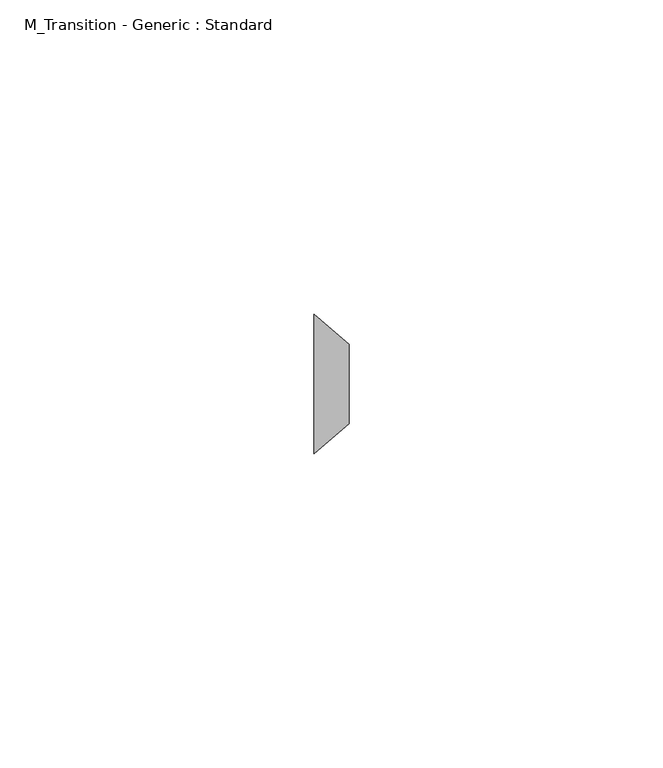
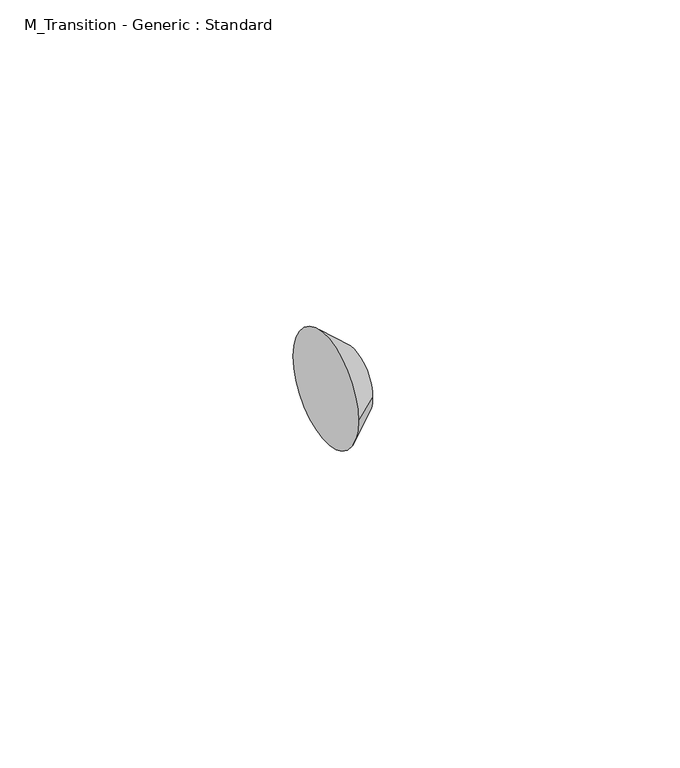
"""IFC4 building model written with IfcOpenShell, lengths in millimetres: pipe fitting geometry, M_Transition - Generic : Standard."""

import ifcopenshell
import ifcopenshell.guid

model = None  # the IFC model being written
_history = None  # IfcOwnerHistory: only IFC2X3 demands one
_inside = {}  # id of a spatial element -> (the spatial element, [elements in it])
_under = {}  # id of a project, library or spatial element -> (it, [spatial elements below it])
_declared = {}  # id of a project -> (the project, [libraries it declares])
_typed = {}  # id of a type object -> (the type object, [elements of that type])
_made_of = {}  # id of a material, layer set ... -> (it, [elements and type objects made of it])


def new_model(schema):
    """Start an empty IFC model of exactly this schema.

    Asked for "IFC4X3", IfcOpenShell would pick the latest addendum, in which some entities
    have other attributes; the version numbers below select the first issue.
    IFC2X3 requires an IfcOwnerHistory on every rooted entity: one is made here for all.
    """
    global model, _history
    if schema == "IFC4X3":
        model = ifcopenshell.file(schema_version=(4, 3, 0, 0))
    else:
        model = ifcopenshell.file(schema=schema)
    _inside.clear()
    _under.clear()
    _declared.clear()
    _typed.clear()
    _made_of.clear()
    _history = None
    if model.schema == "IFC2X3":
        org = make("IfcOrganization", Name="unknown")
        user = make(
            "IfcPersonAndOrganization",
            ThePerson=make("IfcPerson", FamilyName="unknown"),
            TheOrganization=org,
        )
        app = make(
            "IfcApplication",
            ApplicationDeveloper=org,
            Version="unknown",
            ApplicationFullName="unknown",
            ApplicationIdentifier="unknown",
        )
        _history = make(
            "IfcOwnerHistory",
            OwningUser=user,
            OwningApplication=app,
            ChangeAction="ADDED",
            CreationDate=0,
        )
    return model


def make(cls, **values):
    """One entity of the class cls with the attributes given. An attribute that is None is left unset."""
    return model.create_entity(
        cls, **{name: value for name, value in values.items() if value is not None}
    )


def rooted(cls, **values):
    """An entity with a GlobalId (a new one), such as an element, a storey or a relation."""
    return make(cls, GlobalId=ifcopenshell.guid.new(), OwnerHistory=_history, **values)


def si_unit(unit_type, name, prefix=None):
    """IfcSIUnit, for example si_unit("LENGTHUNIT", "METRE", prefix="MILLI")."""
    return make("IfcSIUnit", UnitType=unit_type, Prefix=prefix, Name=name)


def assignment(units):
    """IfcUnitAssignment: the units of a project."""
    return None if units is None else make("IfcUnitAssignment", Units=units)


def point(xyz):
    """IfcCartesianPoint."""
    return None if xyz is None else make("IfcCartesianPoint", Coordinates=xyz)


def direction(xyz):
    """IfcDirection."""
    return None if xyz is None else make("IfcDirection", DirectionRatios=xyz)


def frame(location, z_axis=None, x_axis=None):
    """IfcAxis2Placement3D, a coordinate frame: its origin and axes. An axis left out is left unset."""
    return make(
        "IfcAxis2Placement3D",
        Location=point(location),
        Axis=direction(z_axis),
        RefDirection=direction(x_axis),
    )


def origin():
    """The frame at (0, 0, 0) with its axes left unset."""
    return frame((0.0, 0.0, 0.0))


def place(relative_to, where):
    """IfcLocalPlacement: puts the frame where relative to a parent placement (None: the world)."""
    return make(
        "IfcLocalPlacement", PlacementRelTo=relative_to, RelativePlacement=where
    )


def context(
    kind, dimensions, precision=None, world=None, true_north=None, identifier=None
):
    """IfcGeometricRepresentationContext, for example the 3D "Model" context."""
    return make(
        "IfcGeometricRepresentationContext",
        ContextIdentifier=identifier,
        ContextType=kind,
        CoordinateSpaceDimension=dimensions,
        Precision=precision,
        WorldCoordinateSystem=world,
        TrueNorth=true_north,
    )


def project(units=None, contexts=None):
    """IfcProject with its units and contexts."""
    return rooted(
        "IfcProject",
        Name="project",
        RepresentationContexts=contexts,
        UnitsInContext=assignment(units),
    )


def spatial(cls, under=None, at=None, **own):
    """A site, building, storey or space (cls), placed at a placement, below another one or the project."""
    s = rooted(cls, ObjectPlacement=at, **own)
    if under is not None:
        _under.setdefault(under.id(), (under, []))[1].append(s)
    return s


def polyline(points):
    """IfcPolyline through the points."""
    return make("IfcPolyline", Points=[point(p) for p in points])


def circle_curve(where, radius):
    """IfcCircle in the frame where."""
    return make("IfcCircle", Position=where, Radius=radius)


def shape(context_of_items, identifier, shape_type, items):
    """IfcShapeRepresentation: the items that make up one representation, for example the "Body"."""
    return make(
        "IfcShapeRepresentation",
        ContextOfItems=context_of_items,
        RepresentationIdentifier=identifier,
        RepresentationType=shape_type,
        Items=items,
    )


def source(mapping_origin, context_of_items, identifier, shape_type, items):
    """IfcRepresentationMap: a shape defined once, which mapped items show again and again."""
    return make(
        "IfcRepresentationMap",
        MappingOrigin=mapping_origin,
        MappedRepresentation=shape(context_of_items, identifier, shape_type, items),
    )


def transform(
    local_origin,
    x_axis=None,
    y_axis=None,
    z_axis=None,
    scale=None,
    scale2=None,
    scale3=None,
    uniform=True,
):
    """IfcCartesianTransformationOperator3D, or its non-uniform kind. x_axis, y_axis, z_axis: its Axis1, 2, 3."""
    if uniform:
        return make(
            "IfcCartesianTransformationOperator3D",
            Axis1=direction(x_axis),
            Axis2=direction(y_axis),
            LocalOrigin=point(local_origin),
            Scale=scale,
            Axis3=direction(z_axis),
        )
    return make(
        "IfcCartesianTransformationOperator3DnonUniform",
        Axis1=direction(x_axis),
        Axis2=direction(y_axis),
        LocalOrigin=point(local_origin),
        Scale=scale,
        Axis3=direction(z_axis),
        Scale2=scale2,
        Scale3=scale3,
    )


def mapped(mapping_source, mapping_target):
    """IfcMappedItem: shows the shape of a source again, moved by a transform."""
    return make(
        "IfcMappedItem", MappingSource=mapping_source, MappingTarget=mapping_target
    )


def made_of(thing, what):
    """Note that an element or type object is made of a material, layer set ...; save() writes the relation."""
    if what is not None:
        _made_of.setdefault(what.id(), (what, []))[1].append(thing)
    return thing


def element(
    cls,
    number,
    at=None,
    inside=None,
    cuts=None,
    type_object=None,
    material=None,
    context=None,
    identifier="Body",
    shape_type=None,
    held_by="IfcProductDefinitionShape",
    body=None,
    shapes=None,
    **own,
):
    """One element of the class cls, such as IfcWall. Its Tag is "e" and its number.

    at: its placement. inside: the storey or other place that contains it. cuts: it is an
    opening in that element (IfcRelVoidsElement). A single representation is given by context,
    identifier, shape_type and body (its items); several are given by shapes. held_by: the class
    of the entity that holds the representations. save() writes the other relations.
    """
    e = rooted(cls, Tag="e%d" % number, ObjectPlacement=at, **own)
    if body is not None:
        shapes = [shape(context, identifier, shape_type, body)]
    if shapes is not None:
        e.Representation = make(held_by, Representations=shapes)
    if inside is not None:
        _inside.setdefault(inside.id(), (inside, []))[1].append(e)
    if cuts is not None:
        rooted(
            "IfcRelVoidsElement", RelatingBuildingElement=cuts, RelatedOpeningElement=e
        )
    if type_object is not None:
        _typed.setdefault(type_object.id(), (type_object, []))[1].append(e)
    return made_of(e, material)


def aggregate(whole, parts):
    """IfcRelAggregates: a whole, such as a stair, and the parts it consists of."""
    return rooted("IfcRelAggregates", RelatingObject=whole, RelatedObjects=parts)


def save(model, path):
    """Write the relations noted so far, then the file.

    IfcRelAggregates (storeys below a building ...), IfcRelContainedInSpatialStructure (elements
    in a storey), IfcRelDefinesByType, IfcRelAssociatesMaterial and IfcRelDeclares: one each for
    every whole, place, type object, material and project.
    """
    for whole, parts in _under.values():
        aggregate(whole, parts)
    for where, things in _inside.values():
        rooted(
            "IfcRelContainedInSpatialStructure",
            RelatedElements=things,
            RelatingStructure=where,
        )
    for kind, things in _typed.values():
        rooted("IfcRelDefinesByType", RelatedObjects=things, RelatingType=kind)
    for what, things in _made_of.values():
        rooted("IfcRelAssociatesMaterial", RelatedObjects=things, RelatingMaterial=what)
    for by, libraries in _declared.values():
        rooted("IfcRelDeclares", RelatingContext=by, RelatedDefinitions=libraries)
    model.write(path)


def plane_surface(at):
    """IfcPlane: the flat surface through the origin of the frame at, square to its z axis."""
    return make("IfcPlane", Position=at)


def revolved_surface(curve, axis_point, axis_direction):
    """IfcSurfaceOfRevolution: the curve turned about the line through axis_point along axis_direction."""
    return make(
        "IfcSurfaceOfRevolution",
        SweptCurve=make("IfcArbitraryOpenProfileDef", ProfileType="CURVE", Curve=curve),
        AxisPosition=make("IfcAxis1Placement", Location=point(axis_point), Axis=direction(axis_direction)),
    )


def advanced_brep(points, edges, surfaces, faces):
    """IfcAdvancedBrep: a solid bounded by faces that lie on surfaces and meet in shared edges.

    An edge is (start, end): straight between two places in points (the first is 0);
    or (start, end, curve); or (start, end, curve, False) where it runs against its curve.
    A face is (place in surfaces, loops), or (place, loops, False) where it looks against
    its surface's normal. A loop lists edges by number (the first is 1), with a minus sign
    where the edge is run from its end to its start. The first loop is the outer one.
    """
    corners = [point(p) for p in points]
    vertices = [make("IfcVertexPoint", VertexGeometry=c) for c in corners]
    made = []
    for start, end, *more in edges:
        made.append(
            make(
                "IfcEdgeCurve",
                EdgeStart=vertices[start],
                EdgeEnd=vertices[end],
                EdgeGeometry=more[0] if more else make("IfcPolyline", Points=[corners[start], corners[end]]),
                SameSense=more[1] if len(more) > 1 else True,
            )
        )
    hull = []
    for where, loops, *sense in faces:
        bounds = []
        for j, loop in enumerate(loops):
            ring = [make("IfcOrientedEdge", EdgeElement=made[abs(k) - 1], Orientation=k > 0) for k in loop]
            bounds.append(
                make(
                    "IfcFaceOuterBound" if j == 0 else "IfcFaceBound",
                    Bound=make("IfcEdgeLoop", EdgeList=ring),
                    Orientation=True,
                )
            )
        hull.append(make("IfcAdvancedFace", Bounds=bounds, FaceSurface=surfaces[where], SameSense=sense[0] if sense else True))
    return make("IfcAdvancedBrep", Outer=make("IfcClosedShell", CfsFaces=hull))


def m_transition_generic_standard_a7d161d7(model_context):
    return source(origin(), model_context, "Body", "AdvancedBrep", [
        advanced_brep(
        [(5.55625, -6.3375, 0.0), (5.55625, 6.3375, 0.0), (0.0, -11.1125, 0.0), (0.0, 11.1125, 0.0)],
        [
            (0, 1, circle_curve(frame((5.55625, 0.0, 0.0), z_axis=(1.0, 0.0, 0.0), x_axis=(0.0, -1.0, 0.0)), 6.3375)),
            (1, 0, circle_curve(frame((5.55625, 0.0, 0.0), z_axis=(1.0, 0.0, 0.0), x_axis=(0.0, 1.0, 0.0)), 6.3375)),
            (2, 3, circle_curve(frame((0.0, 0.0, 0.0), z_axis=(-1.0, 0.0, 0.0), x_axis=(0.0, 1.0, 0.0)), 11.1125)),
            (3, 2, circle_curve(frame((0.0, 0.0, 0.0), z_axis=(-1.0, 0.0, 0.0), x_axis=(0.0, -1.0, 0.0)), 11.1125)),
            (3, 1),
            (0, 2),
        ],
        [
            plane_surface(frame((5.55625, 0.0, 0.0), z_axis=(1.0, 0.0, 0.0), x_axis=(0.0, 0.0, -1.0))),
            plane_surface(frame((0.0, 0.0, 0.0), z_axis=(-1.0, 0.0, 0.0), x_axis=(0.0, 0.0, -1.0))),
            revolved_surface(polyline([(5.55625, -6.337499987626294, 0.0), (0.0, -11.1125, 0.0)]), (12.9306446, 0.0, 0.0), (-1.0, 0.0, 0.0)),
            revolved_surface(polyline([(5.55625, 6.337499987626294, 0.0), (0.0, 11.1125, 0.0)]), (12.9306446, 0.0, 0.0), (-1.0, 0.0, 0.0)),
        ],
        [
            (0, [[1, 2]]),
            (1, [[3, 4]]),
            (2, [[-4, 5, -1, 6]]),
            (3, [[-3, -6, -2, -5]]),
        ],
    ),
    ])


if __name__ == "__main__":
    model = new_model("IFC4")
    model_context = context("Model", 3, world=origin())
    ifc_project = project(units=[si_unit("LENGTHUNIT", "METRE", prefix="MILLI")], contexts=[model_context])
    site = spatial("IfcSite", under=ifc_project)
    building = spatial("IfcBuilding", under=site)
    placement = place(None, origin())
    m_transition_generic_standard_shape = m_transition_generic_standard_a7d161d7(model_context)
    element("IfcPipeFitting", 1, ObjectType="M_Transition - Generic : Standard", at=placement, inside=building, context=model_context, shape_type="MappedRepresentation", body=[
        mapped(m_transition_generic_standard_shape, transform((0.0, 0.0, 0.0), x_axis=(1.0, 0.0, 0.0), y_axis=(0.0, 1.0, 0.0), z_axis=(0.0, 0.0, 1.0))),
    ])
    save(model, "model.ifc")
